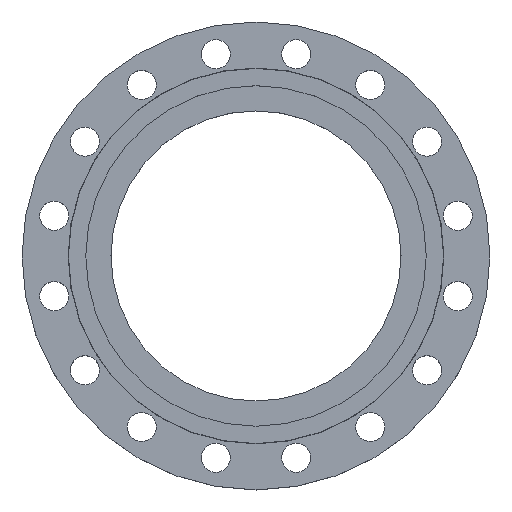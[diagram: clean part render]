
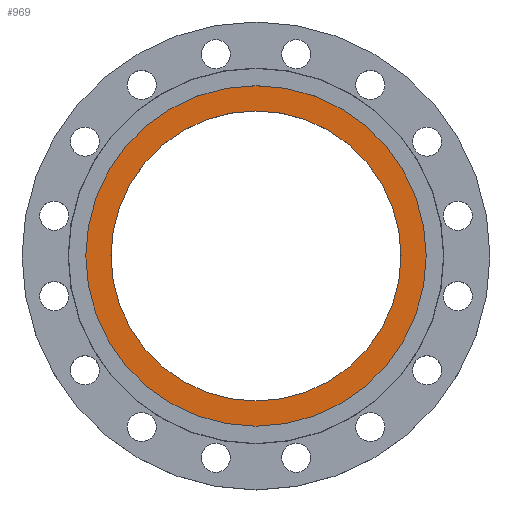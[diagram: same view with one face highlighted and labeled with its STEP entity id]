
A CAD part, top view. The second image highlights one B-rep face of the part: STEP entity #969.
In plain terms, the highlighted planar face has unit normal (0, 0, 1).
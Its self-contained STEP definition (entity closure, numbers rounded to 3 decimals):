
#33 = CIRCLE ( 'NONE', #34, 211. ) ;
#34 = AXIS2_PLACEMENT_3D ( 'NONE', #336, #335, #333 ) ;
#101 = CARTESIAN_POINT ( 'NONE',  ( -211., 0., -5. ) ) ;
#107 = CARTESIAN_POINT ( 'NONE',  ( 211., 0., -5. ) ) ;
#114 = CARTESIAN_POINT ( 'NONE',  ( 179.75, 0., -5. ) ) ;
#161 = DIRECTION ( 'NONE',  ( -1., 0., 0. ) ) ;
#163 = DIRECTION ( 'NONE',  ( 0., 0., -1. ) ) ;
#164 = CARTESIAN_POINT ( 'NONE',  ( 0., 0., -5. ) ) ;
#333 = DIRECTION ( 'NONE',  ( -1., 0., 0. ) ) ;
#335 = DIRECTION ( 'NONE',  ( 0., 0., -1. ) ) ;
#336 = CARTESIAN_POINT ( 'NONE',  ( 0., 0., -5. ) ) ;
#359 = CARTESIAN_POINT ( 'NONE',  ( -179.75, 0., -5. ) ) ;
#417 = CIRCLE ( 'NONE', #418, 179.75 ) ;
#418 = AXIS2_PLACEMENT_3D ( 'NONE', #825, #824, #822 ) ;
#439 = EDGE_CURVE ( 'NONE', #1512, #1204, #417, .T. ) ;
#533 = CIRCLE ( 'NONE', #534, 179.75 ) ;
#534 = AXIS2_PLACEMENT_3D ( 'NONE', #775, #774, #773 ) ;
#560 = DIRECTION ( 'NONE',  ( 1., 0., 0. ) ) ;
#561 = DIRECTION ( 'NONE',  ( 0., 0., 1. ) ) ;
#562 = CARTESIAN_POINT ( 'NONE',  ( 211., 0., -5. ) ) ;
#563 = PLANE ( 'NONE',  #1407 ) ;
#564 = EDGE_CURVE ( 'NONE', #1204, #1512, #533, .T. ) ;
#565 = FACE_OUTER_BOUND ( 'NONE', #1552, .T. ) ;
#567 = FACE_BOUND ( 'NONE', #1545, .T. ) ;
#773 = DIRECTION ( 'NONE',  ( 1., 0., 0. ) ) ;
#774 = DIRECTION ( 'NONE',  ( 0., 0., -1. ) ) ;
#775 = CARTESIAN_POINT ( 'NONE',  ( 0., 0., -5. ) ) ;
#822 = DIRECTION ( 'NONE',  ( 1., 0., 0. ) ) ;
#824 = DIRECTION ( 'NONE',  ( 0., 0., -1. ) ) ;
#825 = CARTESIAN_POINT ( 'NONE',  ( 0., 0., -5. ) ) ;
#849 = CIRCLE ( 'NONE', #850, 211. ) ;
#850 = AXIS2_PLACEMENT_3D ( 'NONE', #164, #163, #161 ) ;
#969 = ADVANCED_FACE ( 'NONE', ( #567, #565 ), #563, .T. ) ;
#1125 = ORIENTED_EDGE ( 'NONE', *, *, #1231, .F. ) ;
#1126 = ORIENTED_EDGE ( 'NONE', *, *, #1450, .F. ) ;
#1129 = ORIENTED_EDGE ( 'NONE', *, *, #439, .T. ) ;
#1130 = ORIENTED_EDGE ( 'NONE', *, *, #564, .T. ) ;
#1204 = VERTEX_POINT ( 'NONE', #359 ) ;
#1231 = EDGE_CURVE ( 'NONE', #1521, #1525, #33, .T. ) ;
#1407 = AXIS2_PLACEMENT_3D ( 'NONE', #562, #561, #560 ) ;
#1450 = EDGE_CURVE ( 'NONE', #1525, #1521, #849, .T. ) ;
#1512 = VERTEX_POINT ( 'NONE', #114 ) ;
#1521 = VERTEX_POINT ( 'NONE', #107 ) ;
#1525 = VERTEX_POINT ( 'NONE', #101 ) ;
#1545 = EDGE_LOOP ( 'NONE', ( #1130, #1129 ) ) ;
#1552 = EDGE_LOOP ( 'NONE', ( #1126, #1125 ) ) ;
